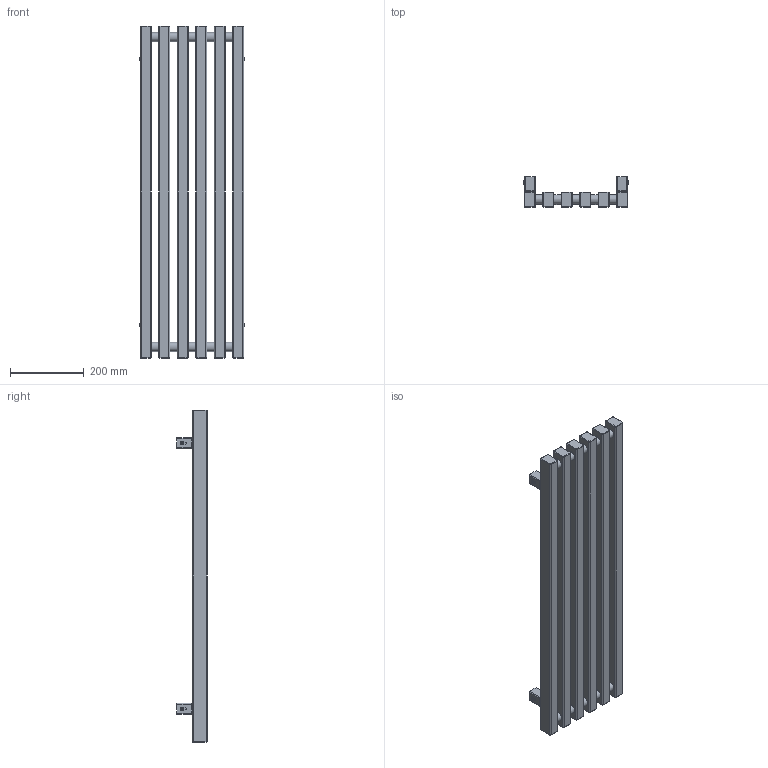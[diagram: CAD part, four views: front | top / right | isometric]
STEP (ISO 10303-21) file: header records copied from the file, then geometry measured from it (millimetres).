
FILE_DESCRIPTION((''),'2;1');
FILE_NAME('Z:\R\G\P\RGP029 - Grzejnik Triga ( ZET)\Work\Inventor\Triga v1.1\Marketing\AutoCad 3D\G-TR-XX-MK-XX-90-38-ZX.stp','2012-07-26T13:34:46',('DawPi'),(''),'Autodesk Inventor 2012','Autodesk Inventor 2012','');
FILE_SCHEMA(('AUTOMOTIVE_DESIGN { 1 0 10303 214 1 1 1 1 }'));
Length unit declared in the file: millimetre
Products named in the file (3): G-TR-XX-MK-XX-90-38-ZX; MMT42
Assembly tree (5 placements, depth 2):
  G-TR-XX-MK-XX-90-38-ZX
    G-TR-XX-MK-XX-90-38-ZX
    MMT42  x4
Bounding box: 286 x 82 x 900 mm (x, y, z)
Volume: 6671839.8 mm3; surface area: 779794.4 mm2
Topology: 5 solids, 5 shells, 373 faces, 845 edges, 515 vertices
Faces by surface type: plane 147, cylinder 141, bspline 48, cone 24, torus 13
Full cylindrical faces by diameter (mm): 4.134 x4, 4.509 x4, 10 x4, 11.445 x1, 12 x4, 18.631 x2, 25 x10
Entity records: 10127 total; most frequent: CARTESIAN_POINT 4914, DIRECTION 1154, ORIENTED_EDGE 972, EDGE_CURVE 486, AXIS2_PLACEMENT_3D 474, VERTEX_POINT 306, EDGE_LOOP 304, CIRCLE 276
